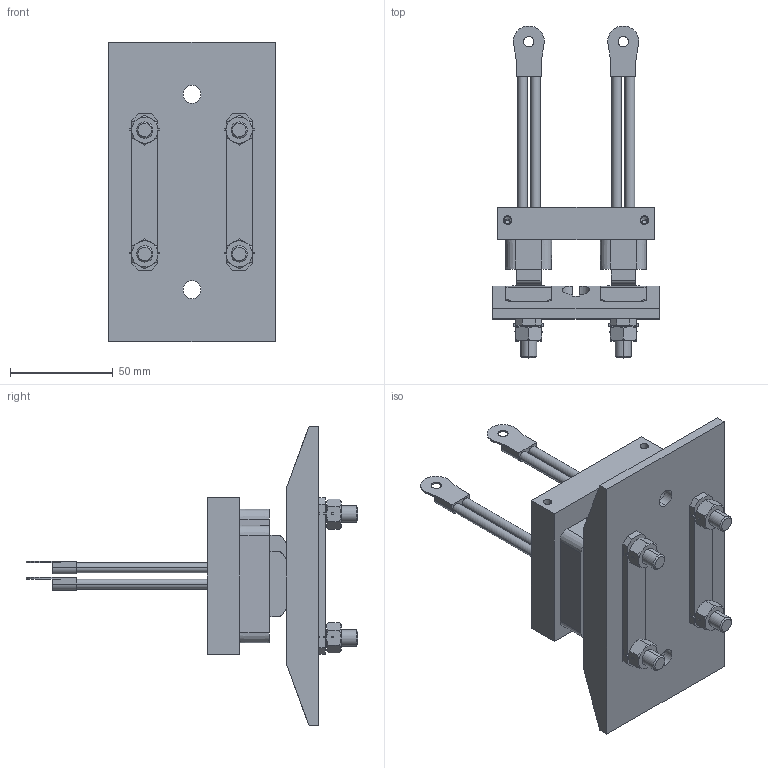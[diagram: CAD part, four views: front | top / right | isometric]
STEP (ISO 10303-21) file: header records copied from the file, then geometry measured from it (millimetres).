
FILE_DESCRIPTION (( 'STEP AP214' ), '1' );
FILE_NAME ('XA-BCL075A2WO.STEP', '2016-09-16T19:56:07', ( 'admin' ), ( 'Microsoft' ), 'SwSTEP 2.0', 'SolidWorks 2014', '' );
FILE_SCHEMA (( 'AUTOMOTIVE_DESIGN' ));
Length unit declared in the file: inch
Products named in the file (16): XA-564824_default; XA-564394; XA-564381_DEFAULT; XA-562732; XA-562700_default; XA-562939; XA-BCB075A2WO; XA-565023; XA-564439; XA-10353_HNUT 0.3125-18-D-C; XA-564384_B18.21.2M-External Tooth Lock Washers_AM8; XA-564382_B18.3.5M - 8 x 1.25 x 35 Socket FCHS  -- 35C; XA-562940; XA-562948; XA-BCL075A2WO; XA-BCC075A2WO
Assembly tree (40 placements, depth 3):
  XA-BCL075A2WO
    XA-BCB075A2WO
      XA-562948
      XA-562940  x2
      XA-564382_B18.3.5M - 8 x 1.25 x 35 Socket FCHS  -- 35C  x4
      XA-564384_B18.21.2M-External Tooth Lock Washers_AM8  x4
      XA-10353_HNUT 0.3125-18-D-C  x4
      XA-564439  x2
      XA-565023  x4
    XA-BCC075A2WO
      XA-562939
      XA-562700_default  x2
      XA-562732  x2
      XA-564381_DEFAULT  x4
      XA-564394  x4
      XA-564824_default  x4
Bounding box: 80.98 x 161.74 x 146.05 mm (x, y, z)
Volume: 291372 mm3; surface area: 114287.3 mm2
Topology: 38 solids, 42 shells, 1100 faces, 2688 edges, 1680 vertices
Faces by surface type: plane 512, cylinder 340, cone 192, bspline 40, torus 16
Entity records: 21796 total; most frequent: CARTESIAN_POINT 9417, DIRECTION 2469, ORIENTED_EDGE 2254, EDGE_CURVE 1127, AXIS2_PLACEMENT_3D 910, VERTEX_POINT 722, VECTOR 649, LINE 649
